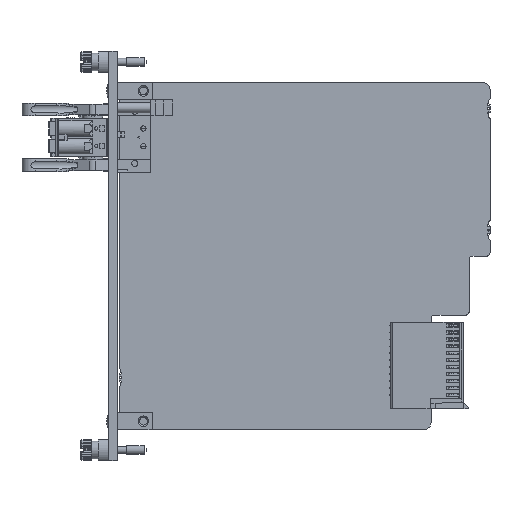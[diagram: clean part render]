
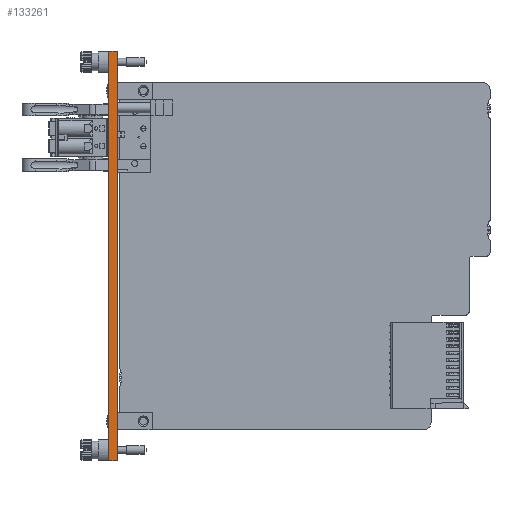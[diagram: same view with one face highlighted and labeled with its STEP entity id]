
A CAD part, top view. The second image highlights one B-rep face of the part: STEP entity #133261.
In plain terms, the highlighted planar face has unit normal (0, 0, 1).
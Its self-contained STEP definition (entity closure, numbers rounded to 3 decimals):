
#6280=FACE_OUTER_BOUND('',#13099,.T.);
#13099=EDGE_LOOP('',(#92089,#92090,#92091,#92092));
#25051=LINE('',#199755,#39211);
#25115=LINE('',#200002,#39275);
#25183=LINE('',#200180,#39343);
#25184=LINE('',#200182,#39344);
#39211=VECTOR('',#158048,10.);
#39275=VECTOR('',#158244,10.);
#39343=VECTOR('',#158442,10.);
#39344=VECTOR('',#158445,10.);
#53215=VERTEX_POINT('',#199752);
#53216=VERTEX_POINT('',#199754);
#53298=VERTEX_POINT('',#199995);
#53301=VERTEX_POINT('',#200000);
#67568=EDGE_CURVE('',#53215,#53216,#25051,.T.);
#67680=EDGE_CURVE('',#53301,#53298,#25115,.T.);
#67769=EDGE_CURVE('',#53301,#53216,#25183,.T.);
#67770=EDGE_CURVE('',#53298,#53215,#25184,.T.);
#92089=ORIENTED_EDGE('',*,*,#67680,.F.);
#92090=ORIENTED_EDGE('',*,*,#67769,.T.);
#92091=ORIENTED_EDGE('',*,*,#67568,.F.);
#92092=ORIENTED_EDGE('',*,*,#67770,.F.);
#121385=PLANE('',#141024);
#133261=ADVANCED_FACE('',(#6280),#121385,.T.);
#141024=AXIS2_PLACEMENT_3D('',#200181,#158443,#158444);
#158048=DIRECTION('',(0.,1.,0.));
#158244=DIRECTION('',(0.,-1.,0.));
#158442=DIRECTION('',(-1.,0.,0.));
#158443=DIRECTION('center_axis',(0.,0.,
1.));
#158444=DIRECTION('ref_axis',(0.,1.,0.));
#158445=DIRECTION('',(-1.,0.,0.));
#199752=CARTESIAN_POINT('',(-56.45,-58.925,35.432));
#199754=CARTESIAN_POINT('',(-56.45,58.925,35.432));
#199755=CARTESIAN_POINT('',(-56.45,58.925,35.432));
#199995=CARTESIAN_POINT('',(-53.95,-58.925,35.432));
#200000=CARTESIAN_POINT('',(-53.95,58.925,35.432));
#200002=CARTESIAN_POINT('',(-53.95,58.925,35.432));
#200180=CARTESIAN_POINT('',(-53.95,58.925,35.432));
#200181=CARTESIAN_POINT('Origin',(-53.95,-58.925,35.432));
#200182=CARTESIAN_POINT('',(-53.95,-58.925,35.432));
